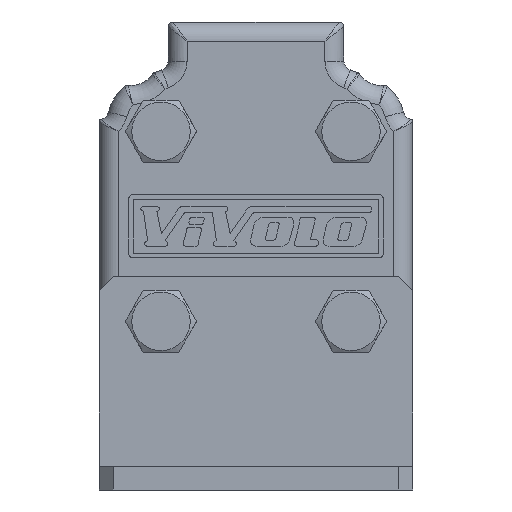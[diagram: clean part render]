
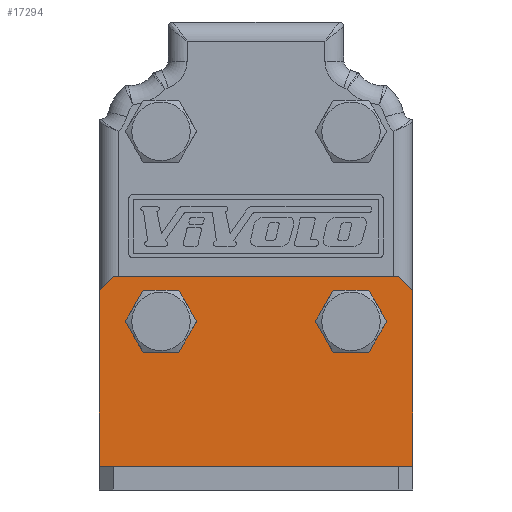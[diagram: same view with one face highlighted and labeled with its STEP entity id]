
A CAD part, front view. The second image highlights one B-rep face of the part: STEP entity #17294.
In plain terms, the highlighted planar face has unit normal (0, -1, 0).
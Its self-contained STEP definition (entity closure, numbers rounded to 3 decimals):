
#573=CIRCLE('',#18097,6.);
#574=CIRCLE('',#18099,6.);
#1431=LINE('',#24569,#2515);
#1438=LINE('',#24592,#2522);
#1439=LINE('',#24594,#2523);
#1440=LINE('',#24596,#2524);
#1441=LINE('',#24598,#2525);
#1442=LINE('',#24600,#2526);
#2515=VECTOR('',#20063,1000.);
#2522=VECTOR('',#20082,1000.);
#2523=VECTOR('',#20083,1000.);
#2524=VECTOR('',#20084,1000.);
#2525=VECTOR('',#20085,1000.);
#2526=VECTOR('',#20086,1000.);
#4191=ORIENTED_EDGE('',*,*,#7388,.T.);
#4192=ORIENTED_EDGE('',*,*,#7387,.T.);
#4193=ORIENTED_EDGE('',*,*,#7450,.F.);
#4194=ORIENTED_EDGE('',*,*,#7439,.T.);
#4195=ORIENTED_EDGE('',*,*,#7451,.F.);
#4196=ORIENTED_EDGE('',*,*,#7452,.F.);
#4197=ORIENTED_EDGE('',*,*,#7453,.F.);
#4198=ORIENTED_EDGE('',*,*,#7454,.F.);
#7387=EDGE_CURVE('',#9101,#9101,#573,.T.);
#7388=EDGE_CURVE('',#9102,#9102,#574,.T.);
#7439=EDGE_CURVE('',#9131,#9132,#1431,.T.);
#7450=EDGE_CURVE('',#9131,#9141,#1438,.T.);
#7451=EDGE_CURVE('',#9142,#9132,#1439,.T.);
#7452=EDGE_CURVE('',#9143,#9142,#1440,.T.);
#7453=EDGE_CURVE('',#9144,#9143,#1441,.T.);
#7454=EDGE_CURVE('',#9141,#9144,#1442,.T.);
#9101=VERTEX_POINT('',#24463);
#9102=VERTEX_POINT('',#24466);
#9131=VERTEX_POINT('',#24570);
#9132=VERTEX_POINT('',#24571);
#9141=VERTEX_POINT('',#24593);
#9142=VERTEX_POINT('',#24595);
#9143=VERTEX_POINT('',#24597);
#9144=VERTEX_POINT('',#24599);
#10297=EDGE_LOOP('',(#4191));
#10298=EDGE_LOOP('',(#4192));
#10299=EDGE_LOOP('',(#4193,#4194,#4195,#4196,#4197,#4198));
#11099=FACE_BOUND('',#10297,.T.);
#11100=FACE_BOUND('',#10298,.T.);
#11101=FACE_BOUND('',#10299,.T.);
#11819=PLANE('',#18133);
#17294=ADVANCED_FACE('',(#11099,#11100,#11101),#11819,.F.);
#18097=AXIS2_PLACEMENT_3D('',#24462,#19955,#19956);
#18099=AXIS2_PLACEMENT_3D('',#24465,#19959,#19960);
#18133=AXIS2_PLACEMENT_3D('',#24591,#20080,#20081);
#19955=DIRECTION('',(0.,1.,0.));
#19956=DIRECTION('',(1.,0.,0.));
#19959=DIRECTION('',(0.,1.,0.));
#19960=DIRECTION('',(1.,0.,0.));
#20063=DIRECTION('',(1.,0.,0.));
#20080=DIRECTION('',(0.,1.,0.));
#20081=DIRECTION('',(0.,0.,1.));
#20082=DIRECTION('',(0.,0.,1.));
#20083=DIRECTION('',(0.,0.,-1.));
#20084=DIRECTION('',(0.707,0.,-0.707));
#20085=DIRECTION('',(1.,0.,0.));
#20086=DIRECTION('',(0.707,0.,0.707));
#24462=CARTESIAN_POINT('',(20.,-5.,-20.));
#24463=CARTESIAN_POINT('',(26.,-5.,-20.));
#24465=CARTESIAN_POINT('',(-20.,-5.,-20.));
#24466=CARTESIAN_POINT('',(-14.,-5.,-20.));
#24569=CARTESIAN_POINT('',(33.,-5.,-50.5));
#24570=CARTESIAN_POINT('',(-33.,-5.,-50.5));
#24571=CARTESIAN_POINT('',(33.,-5.,-50.5));
#24591=CARTESIAN_POINT('',(33.,-5.,-55.5));
#24592=CARTESIAN_POINT('',(-33.,-5.,-55.5));
#24593=CARTESIAN_POINT('',(-33.,-5.,-13.5));
#24594=CARTESIAN_POINT('',(33.,-5.,-13.5));
#24595=CARTESIAN_POINT('',(33.,-5.,-13.5));
#24596=CARTESIAN_POINT('',(30.,-5.,-10.5));
#24597=CARTESIAN_POINT('',(30.,-5.,-10.5));
#24598=CARTESIAN_POINT('',(30.,-5.,-10.5));
#24599=CARTESIAN_POINT('',(-30.,-5.,-10.5));
#24600=CARTESIAN_POINT('',(-33.,-5.,-13.5));
